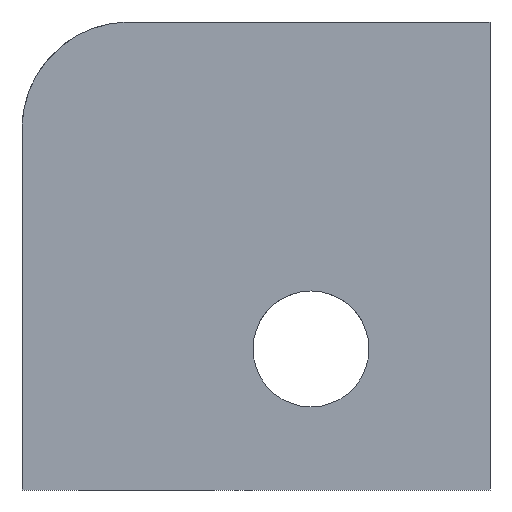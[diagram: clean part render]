
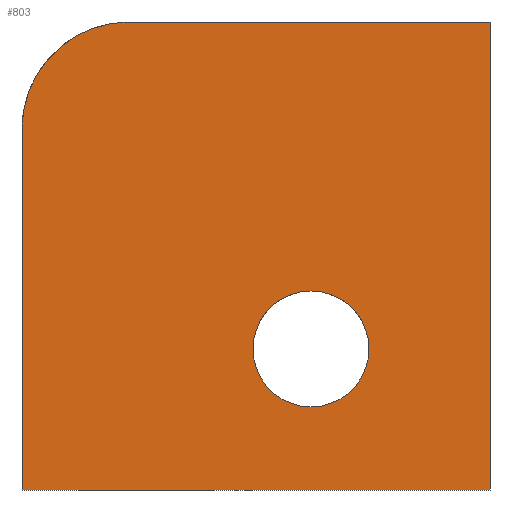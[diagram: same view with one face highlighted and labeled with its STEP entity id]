
A CAD part, front view. The second image highlights one B-rep face of the part: STEP entity #803.
In plain terms, the highlighted planar face has unit normal (0, -1, 0).
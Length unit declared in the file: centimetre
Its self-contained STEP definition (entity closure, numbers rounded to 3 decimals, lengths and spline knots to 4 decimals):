
#11 = EDGE_CURVE ( 'NONE', #113, #429, #284, .T. ) ;
#62 = AXIS2_PLACEMENT_3D ( 'NONE', #332, #1009, #805 ) ;
#94 = PLANE ( 'NONE',  #597 ) ;
#99 = CARTESIAN_POINT ( 'NONE',  ( 0., 0., 0. ) ) ;
#113 = VERTEX_POINT ( 'NONE', #1059 ) ;
#124 = CARTESIAN_POINT ( 'NONE',  ( 0., 0., 1000. ) ) ;
#127 = CARTESIAN_POINT ( 'NONE',  ( 0., 0., 0. ) ) ;
#134 = CIRCLE ( 'NONE', #935, 229.0301 ) ;
#146 = VERTEX_POINT ( 'NONE', #183 ) ;
#180 = DIRECTION ( 'NONE',  ( 0., 0., 1. ) ) ;
#183 = CARTESIAN_POINT ( 'NONE',  ( 229.0301, 0., 1000. ) ) ;
#185 = VERTEX_POINT ( 'NONE', #1215 ) ;
#187 = VECTOR ( 'NONE', #730, 100. ) ;
#198 = DIRECTION ( 'NONE',  ( 0., 0., 1. ) ) ;
#203 = DIRECTION ( 'NONE',  ( 0., 0., -1. ) ) ;
#230 = DIRECTION ( 'NONE',  ( 1., 0., 0. ) ) ;
#260 = CARTESIAN_POINT ( 'NONE',  ( 0., 0., 1000. ) ) ;
#284 = CIRCLE ( 'NONE', #62, 123.8381 ) ;
#294 = VECTOR ( 'NONE', #696, 100. ) ;
#332 = CARTESIAN_POINT ( 'NONE',  ( 617.5294, 0., 301.4424 ) ) ;
#361 = CIRCLE ( 'NONE', #1232, 123.8381 ) ;
#370 = CARTESIAN_POINT ( 'NONE',  ( 229.0301, 0., 770.9699 ) ) ;
#374 = EDGE_CURVE ( 'NONE', #937, #800, #947, .T. ) ;
#385 = EDGE_LOOP ( 'NONE', ( #1205, #1270, #723, #771, #473 ) ) ;
#429 = VERTEX_POINT ( 'NONE', #743 ) ;
#473 = ORIENTED_EDGE ( 'NONE', *, *, #905, .F. ) ;
#486 = CARTESIAN_POINT ( 'NONE',  ( 0., 0., 1000. ) ) ;
#492 = FACE_BOUND ( 'NONE', #860, .T. ) ;
#550 = CARTESIAN_POINT ( 'NONE',  ( 617.5294, 0., 301.4424 ) ) ;
#597 = AXIS2_PLACEMENT_3D ( 'NONE', #486, #1156, #1048 ) ;
#612 = CARTESIAN_POINT ( 'NONE',  ( 1000., 0., 0. ) ) ;
#615 = EDGE_CURVE ( 'NONE', #800, #1013, #1195, .T. ) ;
#696 = DIRECTION ( 'NONE',  ( 1., 0., 0. ) ) ;
#723 = ORIENTED_EDGE ( 'NONE', *, *, #374, .T. ) ;
#730 = DIRECTION ( 'NONE',  ( 0., 0., -1. ) ) ;
#743 = CARTESIAN_POINT ( 'NONE',  ( 617.5294, 0., 177.6044 ) ) ;
#752 = DIRECTION ( 'NONE',  ( 0., -1., 0. ) ) ;
#753 = EDGE_CURVE ( 'NONE', #429, #113, #361, .T. ) ;
#771 = ORIENTED_EDGE ( 'NONE', *, *, #615, .T. ) ;
#779 = ORIENTED_EDGE ( 'NONE', *, *, #753, .T. ) ;
#781 = FACE_OUTER_BOUND ( 'NONE', #385, .T. ) ;
#787 = LINE ( 'NONE', #124, #294 ) ;
#800 = VERTEX_POINT ( 'NONE', #99 ) ;
#803 = ADVANCED_FACE ( 'NONE', ( #492, #781 ), #94, .F. ) ;
#805 = DIRECTION ( 'NONE',  ( 0., 0., 1. ) ) ;
#811 = CARTESIAN_POINT ( 'NONE',  ( 0., 0., 770.9699 ) ) ;
#826 = EDGE_CURVE ( 'NONE', #146, #937, #134, .T. ) ;
#846 = VECTOR ( 'NONE', #203, 100. ) ;
#860 = EDGE_LOOP ( 'NONE', ( #1057, #779 ) ) ;
#905 = EDGE_CURVE ( 'NONE', #185, #1013, #1091, .T. ) ;
#908 = CARTESIAN_POINT ( 'NONE',  ( 1000., 0., 1000. ) ) ;
#935 = AXIS2_PLACEMENT_3D ( 'NONE', #370, #752, #180 ) ;
#937 = VERTEX_POINT ( 'NONE', #811 ) ;
#946 = DIRECTION ( 'NONE',  ( 0., 1., 0. ) ) ;
#947 = LINE ( 'NONE', #260, #187 ) ;
#966 = VECTOR ( 'NONE', #230, 100. ) ;
#972 = EDGE_CURVE ( 'NONE', #146, #185, #787, .T. ) ;
#1009 = DIRECTION ( 'NONE',  ( 0., 1., 0. ) ) ;
#1013 = VERTEX_POINT ( 'NONE', #612 ) ;
#1048 = DIRECTION ( 'NONE',  ( 0., 0., 1. ) ) ;
#1057 = ORIENTED_EDGE ( 'NONE', *, *, #11, .T. ) ;
#1059 = CARTESIAN_POINT ( 'NONE',  ( 617.5294, 0., 425.2805 ) ) ;
#1091 = LINE ( 'NONE', #908, #846 ) ;
#1156 = DIRECTION ( 'NONE',  ( 0., 1., 0. ) ) ;
#1195 = LINE ( 'NONE', #127, #966 ) ;
#1205 = ORIENTED_EDGE ( 'NONE', *, *, #972, .F. ) ;
#1215 = CARTESIAN_POINT ( 'NONE',  ( 1000., 0., 1000. ) ) ;
#1232 = AXIS2_PLACEMENT_3D ( 'NONE', #550, #946, #198 ) ;
#1270 = ORIENTED_EDGE ( 'NONE', *, *, #826, .T. ) ;
